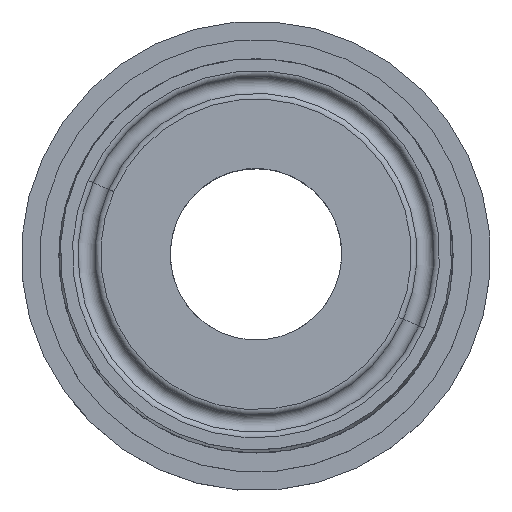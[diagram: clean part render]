
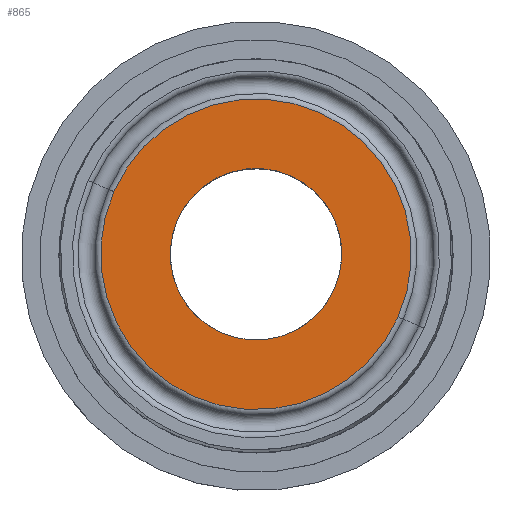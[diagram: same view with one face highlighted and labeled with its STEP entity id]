
A CAD part, top view. The second image highlights one B-rep face of the part: STEP entity #865.
In plain terms, the highlighted planar face has unit normal (0, 0, 1) as drawn and (0, -1, 0) by its records, which use the part's own axes.
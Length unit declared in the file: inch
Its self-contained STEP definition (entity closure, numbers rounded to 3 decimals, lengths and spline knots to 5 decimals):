
#58 = CARTESIAN_POINT ( 'NONE',  ( 0., 0., -0.435 ) ) ;
#96 = DIRECTION ( 'NONE',  ( 0., -1., 0. ) ) ;
#102 = CARTESIAN_POINT ( 'NONE',  ( 0., 0., 0.435 ) ) ;
#116 = CIRCLE ( 'NONE', #1375, 0.435 ) ;
#170 = CARTESIAN_POINT ( 'NONE',  ( 0., 0., -0.78742 ) ) ;
#190 = CARTESIAN_POINT ( 'NONE',  ( 0., 0., 0. ) ) ;
#281 = CIRCLE ( 'NONE', #615, 0.78742 ) ;
#284 = VERTEX_POINT ( 'NONE', #102 ) ;
#290 = EDGE_CURVE ( 'NONE', #1217, #284, #834, .T. ) ;
#300 = ORIENTED_EDGE ( 'NONE', *, *, #290, .F. ) ;
#310 = FACE_OUTER_BOUND ( 'NONE', #853, .T. ) ;
#315 = DIRECTION ( 'NONE',  ( 0., 1., 0. ) ) ;
#365 = DIRECTION ( 'NONE',  ( 0., -1., 0. ) ) ;
#403 = CARTESIAN_POINT ( 'NONE',  ( 0., 0., 0. ) ) ;
#413 = PLANE ( 'NONE',  #1117 ) ;
#424 = VERTEX_POINT ( 'NONE', #170 ) ;
#479 = CARTESIAN_POINT ( 'NONE',  ( 0., 0., 0. ) ) ;
#503 = DIRECTION ( 'NONE',  ( 0., 0., -1. ) ) ;
#537 = DIRECTION ( 'NONE',  ( 0., 0., 1. ) ) ;
#540 = DIRECTION ( 'NONE',  ( 0., 0., -1. ) ) ;
#544 = EDGE_CURVE ( 'NONE', #924, #424, #281, .T. ) ;
#615 = AXIS2_PLACEMENT_3D ( 'NONE', #403, #629, #1059 ) ;
#629 = DIRECTION ( 'NONE',  ( 0., -1., 0. ) ) ;
#685 = EDGE_CURVE ( 'NONE', #424, #924, #922, .T. ) ;
#734 = CARTESIAN_POINT ( 'NONE',  ( 0., 0., 0. ) ) ;
#756 = ORIENTED_EDGE ( 'NONE', *, *, #685, .T. ) ;
#806 = AXIS2_PLACEMENT_3D ( 'NONE', #734, #96, #540 ) ;
#834 = CIRCLE ( 'NONE', #950, 0.435 ) ;
#853 = EDGE_LOOP ( 'NONE', ( #756, #1092 ) ) ;
#865 = ADVANCED_FACE ( 'NONE', ( #1061, #310 ), #413, .F. ) ;
#867 = ORIENTED_EDGE ( 'NONE', *, *, #1221, .F. ) ;
#922 = CIRCLE ( 'NONE', #806, 0.78742 ) ;
#924 = VERTEX_POINT ( 'NONE', #1081 ) ;
#938 = DIRECTION ( 'NONE',  ( 0., 0., -1. ) ) ;
#950 = AXIS2_PLACEMENT_3D ( 'NONE', #1385, #1391, #938 ) ;
#1059 = DIRECTION ( 'NONE',  ( 0., 0., -1. ) ) ;
#1061 = FACE_BOUND ( 'NONE', #1227, .T. ) ;
#1081 = CARTESIAN_POINT ( 'NONE',  ( 0., 0., 0.78742 ) ) ;
#1092 = ORIENTED_EDGE ( 'NONE', *, *, #544, .T. ) ;
#1117 = AXIS2_PLACEMENT_3D ( 'NONE', #190, #315, #537 ) ;
#1217 = VERTEX_POINT ( 'NONE', #58 ) ;
#1221 = EDGE_CURVE ( 'NONE', #284, #1217, #116, .T. ) ;
#1227 = EDGE_LOOP ( 'NONE', ( #300, #867 ) ) ;
#1375 = AXIS2_PLACEMENT_3D ( 'NONE', #479, #365, #503 ) ;
#1385 = CARTESIAN_POINT ( 'NONE',  ( 0., 0., 0. ) ) ;
#1391 = DIRECTION ( 'NONE',  ( 0., -1., 0. ) ) ;
